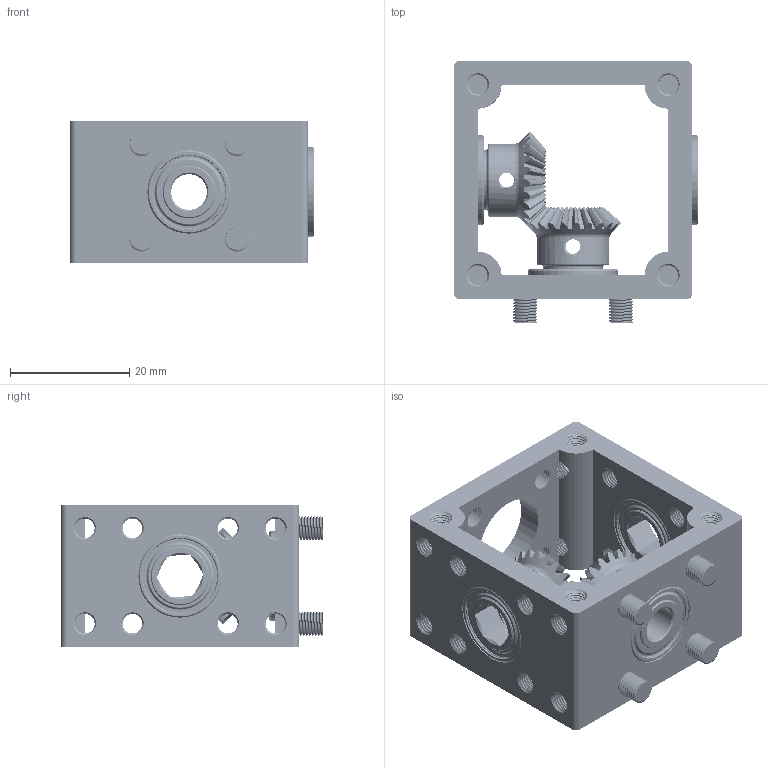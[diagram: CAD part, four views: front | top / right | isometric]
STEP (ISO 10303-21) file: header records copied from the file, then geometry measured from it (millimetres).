
FILE_DESCRIPTION( ('This file contains a STEP AP42 implementation' ,'as created by ZW3D STEP Interface translator.') ,'2;1' );
FILE_NAME( 'BL-GearBox4WithGears.stp' ,'25 519.182833', (''), ('ZWCAD Software Co.'), 'Version 1.0', 'ZW3D to STEP translator', '' );
FILE_SCHEMA(('AUTOMOTIVE_DESIGN { 1 0 10303 214 1 1 1 1 }'));
Length unit declared in the file: millimetre
Products named in the file (7): 0; BL-GearBoxWithGears; M0.7T22BevelGear; 1611-0514-4008-Hex; BL-GearBox4; 1611-0514-0006-BB6; M4-8-5.5
Assembly tree (9 placements, depth 2):
  0
  BL-GearBoxWithGears
    M0.7T22BevelGear
    1611-0514-4008-Hex  x2
    BL-GearBox4
    1611-0514-0006-BB6
    M4-8-5.5  x4
Bounding box: 41 x 44 x 24 mm (x, y, z)
Volume: 14332.8 mm3; surface area: 15637.6 mm2
Topology: 16 solids, 16 shells, 2985 faces, 8483 edges, 5518 vertices
Faces by surface type: bspline 1511, cylinder 1050, plane 189, cone 168, torus 67
Full cylindrical faces by diameter (mm): 2.5 x18, 3.3 x202, 4 x52, 6 x1, 10 x2, 12.232 x2, 14 x4
Entity records: 374565 total; most frequent: CARTESIAN_POINT 319309, ORIENTED_EDGE 15960, EDGE_CURVE 7980, VERTEX_POINT 5199, DIRECTION 4697, B_SPLINE_CURVE_WITH_KNOTS 3907, EDGE_LOOP 2917, FACE_OUTER_BOUND 2804
